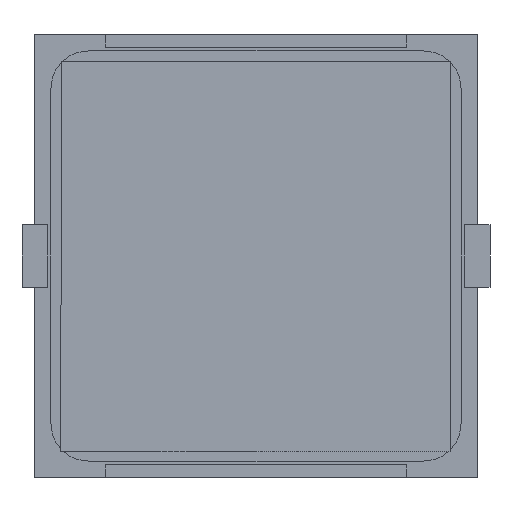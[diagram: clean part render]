
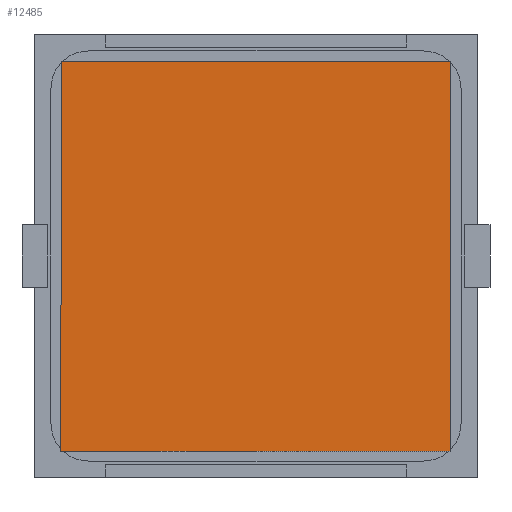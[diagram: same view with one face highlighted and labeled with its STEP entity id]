
A CAD part, front view. The second image highlights one B-rep face of the part: STEP entity #12485.
In plain terms, the highlighted planar face has unit normal (0, -1, 0).
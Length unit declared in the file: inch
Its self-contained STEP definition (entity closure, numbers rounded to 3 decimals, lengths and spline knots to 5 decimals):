
#690 = DIRECTION ( 'NONE',  ( -1., 0., 0. ) ) ;
#748 = ORIENTED_EDGE ( 'NONE', *, *, #8718, .F. ) ;
#924 = VERTEX_POINT ( 'NONE', #10172 ) ;
#989 = ORIENTED_EDGE ( 'NONE', *, *, #5527, .F. ) ;
#1437 = CARTESIAN_POINT ( 'NONE',  ( -0.61024, -0.005, 0.61024 ) ) ;
#1447 = ORIENTED_EDGE ( 'NONE', *, *, #6026, .F. ) ;
#1572 = LINE ( 'NONE', #12091, #5787 ) ;
#1649 = FACE_OUTER_BOUND ( 'NONE', #9850, .T. ) ;
#2379 = LINE ( 'NONE', #2831, #10949 ) ;
#2831 = CARTESIAN_POINT ( 'NONE',  ( -0.61024, -0.005, -0.61024 ) ) ;
#3349 = VERTEX_POINT ( 'NONE', #7363 ) ;
#3570 = DIRECTION ( 'NONE',  ( 1., 0., 0. ) ) ;
#4198 = DIRECTION ( 'NONE',  ( 0., 0., 1. ) ) ;
#4478 = EDGE_CURVE ( 'NONE', #3349, #924, #13659, .T. ) ;
#4864 = CARTESIAN_POINT ( 'NONE',  ( -0.61024, -0.005, 0.61024 ) ) ;
#4902 = VECTOR ( 'NONE', #4198, 39.37008 ) ;
#5185 = VERTEX_POINT ( 'NONE', #11605 ) ;
#5527 = EDGE_CURVE ( 'NONE', #5185, #12055, #1572, .T. ) ;
#5536 = ORIENTED_EDGE ( 'NONE', *, *, #4478, .F. ) ;
#5787 = VECTOR ( 'NONE', #7974, 39.37008 ) ;
#6026 = EDGE_CURVE ( 'NONE', #12055, #3349, #2379, .T. ) ;
#6588 = LINE ( 'NONE', #1437, #7790 ) ;
#7363 = CARTESIAN_POINT ( 'NONE',  ( -0.61024, -0.005, -0.61024 ) ) ;
#7790 = VECTOR ( 'NONE', #3570, 39.37008 ) ;
#7974 = DIRECTION ( 'NONE',  ( 0., 0., -1. ) ) ;
#8718 = EDGE_CURVE ( 'NONE', #924, #5185, #6588, .T. ) ;
#8954 = AXIS2_PLACEMENT_3D ( 'NONE', #4864, #10184, #9210 ) ;
#9210 = DIRECTION ( 'NONE',  ( 0., 0., 1. ) ) ;
#9237 = CARTESIAN_POINT ( 'NONE',  ( 0.61024, -0.005, -0.61024 ) ) ;
#9850 = EDGE_LOOP ( 'NONE', ( #5536, #1447, #989, #748 ) ) ;
#10172 = CARTESIAN_POINT ( 'NONE',  ( -0.61024, -0.005, 0.61024 ) ) ;
#10184 = DIRECTION ( 'NONE',  ( 0., 1., 0. ) ) ;
#10552 = CARTESIAN_POINT ( 'NONE',  ( -0.61024, -0.005, -0.61024 ) ) ;
#10949 = VECTOR ( 'NONE', #690, 39.37008 ) ;
#11107 = PLANE ( 'NONE',  #8954 ) ;
#11605 = CARTESIAN_POINT ( 'NONE',  ( 0.61024, -0.005, 0.61024 ) ) ;
#12055 = VERTEX_POINT ( 'NONE', #9237 ) ;
#12091 = CARTESIAN_POINT ( 'NONE',  ( 0.61024, -0.005, -0.61024 ) ) ;
#12485 = ADVANCED_FACE ( 'NONE', ( #1649 ), #11107, .F. ) ;
#13659 = LINE ( 'NONE', #10552, #4902 ) ;
